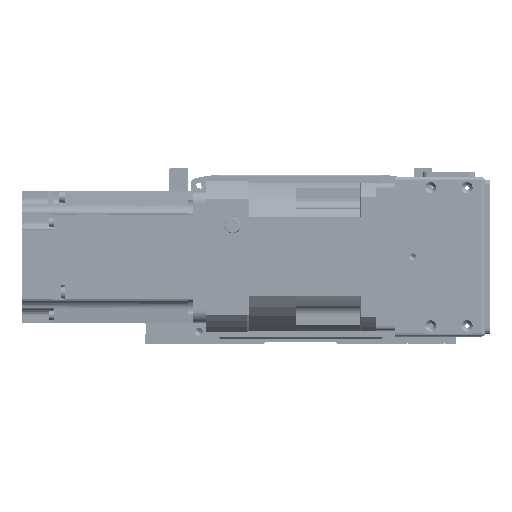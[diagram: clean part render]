
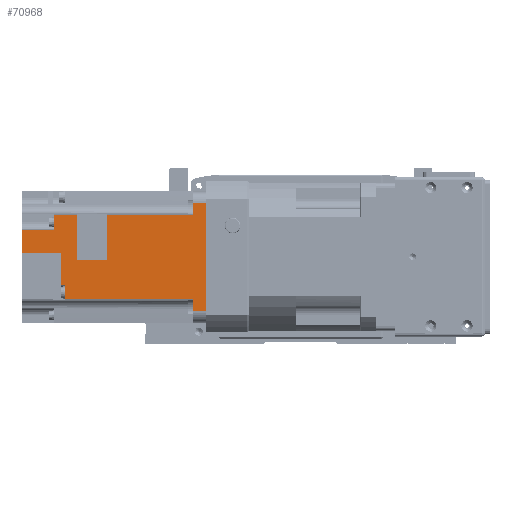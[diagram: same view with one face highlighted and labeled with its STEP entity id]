
A CAD part, front view. The second image highlights one B-rep face of the part: STEP entity #70968.
In plain terms, the highlighted planar face has unit normal (0, -1, -0.003).
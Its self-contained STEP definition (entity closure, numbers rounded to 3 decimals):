
#4680=PLANE('',#77784);
#9539=FACE_OUTER_BOUND('',#13805,.T.);
#13805=EDGE_LOOP('',(#63116,#63117,#63118,#63119,#63120,#63121,#63122,#63123,
#63124,#63125,#63126,#63127,#63128,#63129,#63130,#63131,#63132,#63133,#63134,
#63135,#63136,#63137,#63138,#63139,#63140,#63141));
#20235=LINE('',#117902,#26818);
#20236=LINE('',#117905,#26819);
#20241=LINE('',#117947,#26824);
#20245=LINE('',#117976,#26828);
#20248=LINE('',#117987,#26831);
#20249=LINE('',#117991,#26832);
#20250=LINE('',#117993,#26833);
#20251=LINE('',#117994,#26834);
#20252=LINE('',#117996,#26835);
#20253=LINE('',#117998,#26836);
#20254=LINE('',#118000,#26837);
#20255=LINE('',#118001,#26838);
#20256=LINE('',#118003,#26839);
#20257=LINE('',#118005,#26840);
#20258=LINE('',#118007,#26841);
#20259=LINE('',#118009,#26842);
#20260=LINE('',#118011,#26843);
#20261=LINE('',#118013,#26844);
#20262=LINE('',#118015,#26845);
#20263=LINE('',#118017,#26846);
#20264=LINE('',#118019,#26847);
#20265=LINE('',#118021,#26848);
#20266=LINE('',#118023,#26849);
#20267=LINE('',#118025,#26850);
#20268=LINE('',#118027,#26851);
#20269=LINE('',#118028,#26852);
#26818=VECTOR('',#95124,3.);
#26819=VECTOR('',#95127,0.009);
#26824=VECTOR('',#95166,0.009);
#26828=VECTOR('',#95196,7.342);
#26831=VECTOR('',#95207,8.);
#26832=VECTOR('',#95210,2.548);
#26833=VECTOR('',#95211,2.682);
#26834=VECTOR('',#95212,75.);
#26835=VECTOR('',#95213,66.);
#26836=VECTOR('',#95214,8.);
#26837=VECTOR('',#95215,7.342);
#26838=VECTOR('',#95216,3.);
#26839=VECTOR('',#95217,49.1);
#26840=VECTOR('',#95218,27.466);
#26841=VECTOR('',#95219,18.55);
#26842=VECTOR('',#95220,27.466);
#26843=VECTOR('',#95221,13.85);
#26844=VECTOR('',#95222,8.966);
#26845=VECTOR('',#95223,19.5);
#26846=VECTOR('',#95224,14.5);
#26847=VECTOR('',#95225,23.5);
#26848=VECTOR('',#95226,19.4);
#26849=VECTOR('',#95227,0.5);
#26850=VECTOR('',#95228,0.001);
#26851=VECTOR('',#95229,2.);
#26852=VECTOR('',#95230,3.238);
#36123=VERTEX_POINT('',#117896);
#36125=VERTEX_POINT('',#117900);
#36126=VERTEX_POINT('',#117904);
#36145=VERTEX_POINT('',#117944);
#36146=VERTEX_POINT('',#117946);
#36157=VERTEX_POINT('',#117973);
#36162=VERTEX_POINT('',#117985);
#36163=VERTEX_POINT('',#117989);
#36164=VERTEX_POINT('',#117990);
#36165=VERTEX_POINT('',#117992);
#36166=VERTEX_POINT('',#117995);
#36167=VERTEX_POINT('',#117997);
#36168=VERTEX_POINT('',#117999);
#36169=VERTEX_POINT('',#118002);
#36170=VERTEX_POINT('',#118004);
#36171=VERTEX_POINT('',#118006);
#36172=VERTEX_POINT('',#118008);
#36173=VERTEX_POINT('',#118010);
#36174=VERTEX_POINT('',#118012);
#36175=VERTEX_POINT('',#118014);
#36176=VERTEX_POINT('',#118016);
#36177=VERTEX_POINT('',#118018);
#36178=VERTEX_POINT('',#118020);
#36179=VERTEX_POINT('',#118022);
#36180=VERTEX_POINT('',#118024);
#36181=VERTEX_POINT('',#118026);
#45352=EDGE_CURVE('',#36125,#36123,#20235,.T.);
#45353=EDGE_CURVE('',#36123,#36126,#20236,.T.);
#45373=EDGE_CURVE('',#36145,#36146,#20241,.T.);
#45387=EDGE_CURVE('',#36125,#36157,#20245,.T.);
#45393=EDGE_CURVE('',#36157,#36162,#20248,.T.);
#45394=EDGE_CURVE('',#36163,#36164,#20249,.T.);
#45395=EDGE_CURVE('',#36165,#36163,#20250,.T.);
#45396=EDGE_CURVE('',#36165,#36126,#20251,.T.);
#45397=EDGE_CURVE('',#36162,#36166,#20252,.T.);
#45398=EDGE_CURVE('',#36166,#36167,#20253,.T.);
#45399=EDGE_CURVE('',#36167,#36168,#20254,.T.);
#45400=EDGE_CURVE('',#36168,#36146,#20255,.T.);
#45401=EDGE_CURVE('',#36169,#36145,#20256,.T.);
#45402=EDGE_CURVE('',#36169,#36170,#20257,.T.);
#45403=EDGE_CURVE('',#36170,#36171,#20258,.T.);
#45404=EDGE_CURVE('',#36172,#36171,#20259,.T.);
#45405=EDGE_CURVE('',#36172,#36173,#20260,.T.);
#45406=EDGE_CURVE('',#36174,#36173,#20261,.T.);
#45407=EDGE_CURVE('',#36175,#36174,#20262,.T.);
#45408=EDGE_CURVE('',#36175,#36176,#20263,.T.);
#45409=EDGE_CURVE('',#36176,#36177,#20264,.T.);
#45410=EDGE_CURVE('',#36177,#36178,#20265,.T.);
#45411=EDGE_CURVE('',#36178,#36179,#20266,.T.);
#45412=EDGE_CURVE('',#36180,#36179,#20267,.T.);
#45413=EDGE_CURVE('',#36180,#36181,#20268,.T.);
#45414=EDGE_CURVE('',#36164,#36181,#20269,.T.);
#63116=ORIENTED_EDGE('',*,*,#45394,.F.);
#63117=ORIENTED_EDGE('',*,*,#45395,.F.);
#63118=ORIENTED_EDGE('',*,*,#45396,.T.);
#63119=ORIENTED_EDGE('',*,*,#45353,.F.);
#63120=ORIENTED_EDGE('',*,*,#45352,.F.);
#63121=ORIENTED_EDGE('',*,*,#45387,.T.);
#63122=ORIENTED_EDGE('',*,*,#45393,.T.);
#63123=ORIENTED_EDGE('',*,*,#45397,.T.);
#63124=ORIENTED_EDGE('',*,*,#45398,.T.);
#63125=ORIENTED_EDGE('',*,*,#45399,.T.);
#63126=ORIENTED_EDGE('',*,*,#45400,.T.);
#63127=ORIENTED_EDGE('',*,*,#45373,.F.);
#63128=ORIENTED_EDGE('',*,*,#45401,.F.);
#63129=ORIENTED_EDGE('',*,*,#45402,.T.);
#63130=ORIENTED_EDGE('',*,*,#45403,.T.);
#63131=ORIENTED_EDGE('',*,*,#45404,.F.);
#63132=ORIENTED_EDGE('',*,*,#45405,.T.);
#63133=ORIENTED_EDGE('',*,*,#45406,.F.);
#63134=ORIENTED_EDGE('',*,*,#45407,.F.);
#63135=ORIENTED_EDGE('',*,*,#45408,.T.);
#63136=ORIENTED_EDGE('',*,*,#45409,.T.);
#63137=ORIENTED_EDGE('',*,*,#45410,.T.);
#63138=ORIENTED_EDGE('',*,*,#45411,.T.);
#63139=ORIENTED_EDGE('',*,*,#45412,.F.);
#63140=ORIENTED_EDGE('',*,*,#45413,.T.);
#63141=ORIENTED_EDGE('',*,*,#45414,.F.);
#70968=ADVANCED_FACE('',(#9539),#4680,.F.);
#77784=AXIS2_PLACEMENT_3D('',#117988,#95208,#95209);
#95124=DIRECTION('',(0.,0.,-1.));
#95127=DIRECTION('',(1.,0.,0.));
#95166=DIRECTION('',(1.,0.,0.));
#95196=DIRECTION('',(1.,0.,0.));
#95207=DIRECTION('',(0.,0.,1.));
#95208=DIRECTION('center_axis',(0.,1.,0.));
#95209=DIRECTION('ref_axis',(1.,0.,0.));
#95210=DIRECTION('',(-1.,0.,0.));
#95211=DIRECTION('',(-1.,0.,0.));
#95212=DIRECTION('',(0.,0.,1.));
#95213=DIRECTION('',(-1.,0.,0.));
#95214=DIRECTION('',(0.,0.,-1.));
#95215=DIRECTION('',(1.,0.,0.));
#95216=DIRECTION('',(0.,0.,-1.));
#95217=DIRECTION('',(0.,0.,1.));
#95218=DIRECTION('',(1.,0.,0.));
#95219=DIRECTION('',(0.,0.,-1.));
#95220=DIRECTION('',(1.,0.,0.));
#95221=DIRECTION('',(0.,0.,-1.));
#95222=DIRECTION('',(-1.,0.,0.));
#95223=DIRECTION('',(0.,0.,1.));
#95224=DIRECTION('',(1.,0.,0.));
#95225=DIRECTION('',(0.,0.,1.));
#95226=DIRECTION('',(1.,0.,0.));
#95227=DIRECTION('',(0.,0.,1.));
#95228=DIRECTION('',(1.,0.,0.));
#95229=DIRECTION('',(0.,0.,1.));
#95230=DIRECTION('',(-1.,0.,0.));
#117896=CARTESIAN_POINT('',(25.658,-40.,-11.));
#117900=CARTESIAN_POINT('',(25.658,-40.,-8.));
#117902=CARTESIAN_POINT('',(25.658,-40.,-8.));
#117904=CARTESIAN_POINT('',(25.666,-40.,-11.));
#117905=CARTESIAN_POINT('',(25.658,-40.,-11.));
#117944=CARTESIAN_POINT('',(-25.666,-40.,-11.));
#117946=CARTESIAN_POINT('',(-25.658,-40.,-11.));
#117947=CARTESIAN_POINT('',(-25.666,-40.,-11.));
#117973=CARTESIAN_POINT('',(33.,-40.,-8.));
#117976=CARTESIAN_POINT('',(25.658,-40.,-8.));
#117985=CARTESIAN_POINT('',(33.,-40.,0.));
#117987=CARTESIAN_POINT('',(33.,-40.,-8.));
#117988=CARTESIAN_POINT('Origin',(0.,-40.,-5.5));
#117989=CARTESIAN_POINT('',(22.985,-40.,-86.));
#117990=CARTESIAN_POINT('',(20.437,-40.,-86.));
#117991=CARTESIAN_POINT('',(22.985,-40.,-86.));
#117992=CARTESIAN_POINT('',(25.666,-40.,-86.));
#117993=CARTESIAN_POINT('',(25.666,-40.,-86.));
#117994=CARTESIAN_POINT('',(25.666,-40.,-86.));
#117995=CARTESIAN_POINT('',(-33.,-40.,0.));
#117996=CARTESIAN_POINT('',(33.,-40.,0.));
#117997=CARTESIAN_POINT('',(-33.,-40.,-8.));
#117998=CARTESIAN_POINT('',(-33.,-40.,0.));
#117999=CARTESIAN_POINT('',(-25.658,-40.,-8.));
#118000=CARTESIAN_POINT('',(-33.,-40.,-8.));
#118001=CARTESIAN_POINT('',(-25.658,-40.,-8.));
#118002=CARTESIAN_POINT('',(-25.666,-40.,-60.1));
#118003=CARTESIAN_POINT('',(-25.666,-40.,-60.1));
#118004=CARTESIAN_POINT('',(1.8,-40.,-60.1));
#118005=CARTESIAN_POINT('',(-25.666,-40.,-60.1));
#118006=CARTESIAN_POINT('',(1.8,-40.,-78.65));
#118007=CARTESIAN_POINT('',(1.8,-40.,-60.1));
#118008=CARTESIAN_POINT('',(-25.666,-40.,-78.65));
#118009=CARTESIAN_POINT('',(-25.666,-40.,-78.65));
#118010=CARTESIAN_POINT('',(-25.666,-40.,-92.5));
#118011=CARTESIAN_POINT('',(-25.666,-40.,-78.65));
#118012=CARTESIAN_POINT('',(-16.7,-40.,-92.5));
#118013=CARTESIAN_POINT('',(-16.7,-40.,-92.5));
#118014=CARTESIAN_POINT('',(-16.7,-40.,-112.));
#118015=CARTESIAN_POINT('',(-16.7,-40.,-112.));
#118016=CARTESIAN_POINT('',(-2.2,-40.,-112.));
#118017=CARTESIAN_POINT('',(-16.7,-40.,-112.));
#118018=CARTESIAN_POINT('',(-2.2,-40.,-88.5));
#118019=CARTESIAN_POINT('',(-2.2,-40.,-112.));
#118020=CARTESIAN_POINT('',(17.2,-40.,-88.5));
#118021=CARTESIAN_POINT('',(-2.2,-40.,-88.5));
#118022=CARTESIAN_POINT('',(17.2,-40.,-88.));
#118023=CARTESIAN_POINT('',(17.2,-40.,-88.5));
#118024=CARTESIAN_POINT('',(17.199,-40.,-88.));
#118025=CARTESIAN_POINT('',(17.199,-40.,-88.));
#118026=CARTESIAN_POINT('',(17.199,-40.,-86.));
#118027=CARTESIAN_POINT('',(17.199,-40.,-88.));
#118028=CARTESIAN_POINT('',(20.437,-40.,-86.));
